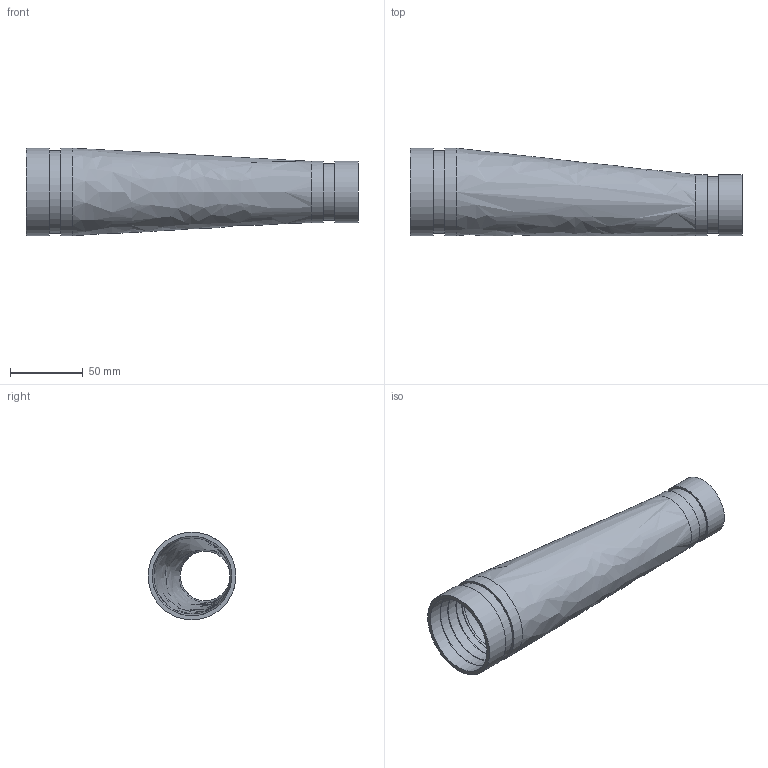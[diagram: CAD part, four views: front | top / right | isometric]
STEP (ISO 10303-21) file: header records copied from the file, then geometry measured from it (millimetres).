
FILE_DESCRIPTION(/* description */ ('VIC REDUCER ECCENTRIC No 451H-SS','CAx-IF Rec.Pracs.---Representation and Presentation of Product Manufacturing Information (PMI)---4.0---2014-10-13'),/* implementation_level */ '2;1');
FILE_NAME(/* name */ 'C:\Users\kkamble\AppData\Roaming\Autodesk\ApplicationPlugins\Back Up\Victaulic_SS-OGS_Reducer Eccentric_Sched 40S_No 451H SS (OGS)\Victaulic_SS-OGS_Reducer Eccentric_Sched 40S_No 451H SS (OGS)_02.0x01.25 (50x32).stp',/* time_stamp */ '2020-08-25T18:05:23+06:00',/* author */ ('CORINNE GRAY'),/* organization */ ('Victaulic'),/* preprocessor_version */ 'ST-DEVELOPER v17.2',/* originating_system */ 'Autodesk Inventor 2019',/* authorisation */ '');
FILE_SCHEMA (('AP242_MANAGED_MODEL_BASED_3D_ENGINEERING_MIM_LF { 1 0 10303 442 1 1 4 }'));
Length unit declared in the file: inch
Products named in the file (1): 451H SS-02.0x01.25
Bounding box: 228.6 x 60.33 x 60.33 mm (x, y, z)
Volume: 96822.3 mm3; surface area: 71267.5 mm2
Topology: 1 solids, 1 shells, 32 faces, 109 edges, 83 vertices
Faces by surface type: cylinder 12, torus 8, plane 6, cone 4, bspline 2
Full cylindrical faces by diameter (mm): 34.163 x1, 36.576 x2, 38.989 x1, 42.164 x2, 52.578 x1, 54.864 x2, 57.15 x1, 60.325 x2
Entity records: 1484 total; most frequent: DIRECTION 286, CARTESIAN_POINT 278, ORIENTED_EDGE 218, AXIS2_PLACEMENT_3D 135, EDGE_CURVE 109, CIRCLE 91, VERTEX_POINT 83, EDGE_LOOP 38
